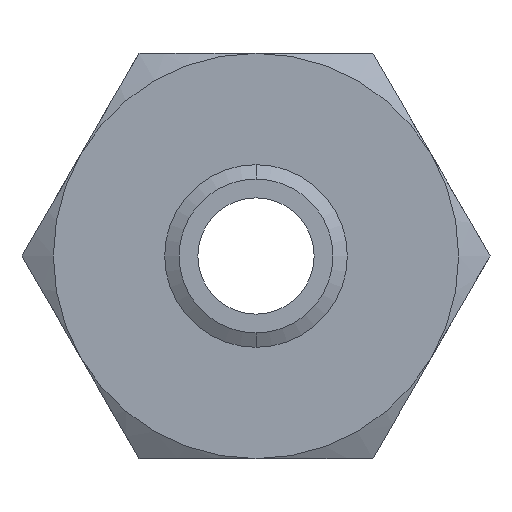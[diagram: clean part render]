
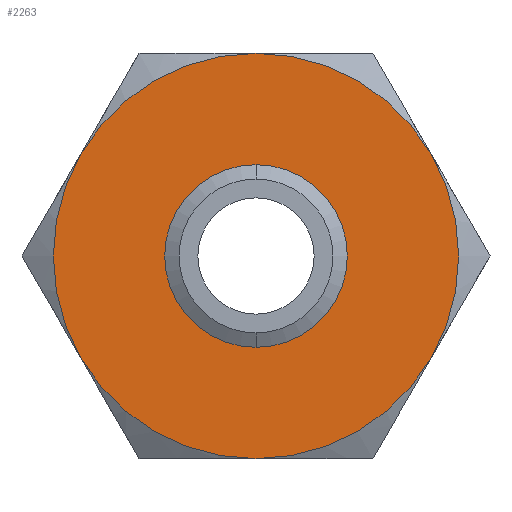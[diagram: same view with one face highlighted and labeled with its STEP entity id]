
A CAD part, front view. The second image highlights one B-rep face of the part: STEP entity #2263.
In plain terms, the highlighted planar face has unit normal (0, -1, 0).
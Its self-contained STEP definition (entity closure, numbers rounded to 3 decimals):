
#77 = EDGE_CURVE ( 'NONE', #78, #79, #428, .T. ) ;
#78 = VERTEX_POINT ( 'NONE', #485 ) ;
#79 = VERTEX_POINT ( 'NONE', #484 ) ;
#124 = EDGE_CURVE ( 'NONE', #2210, #125, #529, .T. ) ;
#125 = VERTEX_POINT ( 'NONE', #521 ) ;
#126 = ORIENTED_EDGE ( 'NONE', *, *, #124, .F. ) ;
#261 = EDGE_LOOP ( 'NONE', ( #2282, #2324 ) ) ;
#424 = DIRECTION ( 'NONE',  ( 0., 0., -1. ) ) ;
#425 = DIRECTION ( 'NONE',  ( 0., -1., 0. ) ) ;
#426 = CARTESIAN_POINT ( 'NONE',  ( 0., 0., 0. ) ) ;
#427 = AXIS2_PLACEMENT_3D ( 'NONE', #426, #425, #424 ) ;
#428 = CIRCLE ( 'NONE', #427, 29.426 ) ;
#484 = CARTESIAN_POINT ( 'NONE',  ( 0., 0., 29.426 ) ) ;
#485 = CARTESIAN_POINT ( 'NONE',  ( 0., 0., -29.426 ) ) ;
#521 = CARTESIAN_POINT ( 'NONE',  ( 67.117, 0., -38.75 ) ) ;
#522 = DIRECTION ( 'NONE',  ( 0., 0., 1. ) ) ;
#523 = DIRECTION ( 'NONE',  ( 0., 1., 0. ) ) ;
#524 = CARTESIAN_POINT ( 'NONE',  ( 0., 0., 0. ) ) ;
#525 = AXIS2_PLACEMENT_3D ( 'NONE', #524, #523, #522 ) ;
#529 = CIRCLE ( 'NONE', #525, 77.5 ) ;
#1197 = CARTESIAN_POINT ( 'NONE',  ( 0., 0., 77.5 ) ) ;
#1249 = DIRECTION ( 'NONE',  ( 0., 0., 1. ) ) ;
#1250 = DIRECTION ( 'NONE',  ( 0., 1., 0. ) ) ;
#1251 = AXIS2_PLACEMENT_3D ( 'NONE', #1266, #1250, #1249 ) ;
#1264 = CIRCLE ( 'NONE', #1251, 77.5 ) ;
#1266 = CARTESIAN_POINT ( 'NONE',  ( 0., 0., 0. ) ) ;
#1267 = CARTESIAN_POINT ( 'NONE',  ( 0., 0., -77.5 ) ) ;
#1298 = CARTESIAN_POINT ( 'NONE',  ( -67.117, 0., -38.75 ) ) ;
#1299 = DIRECTION ( 'NONE',  ( 0., 0., 1. ) ) ;
#1300 = DIRECTION ( 'NONE',  ( 0., 1., 0. ) ) ;
#1301 = CARTESIAN_POINT ( 'NONE',  ( 0., 0., 0. ) ) ;
#1302 = AXIS2_PLACEMENT_3D ( 'NONE', #1301, #1300, #1299 ) ;
#1303 = CIRCLE ( 'NONE', #1302, 77.5 ) ;
#1307 = DIRECTION ( 'NONE',  ( 0., 0., 1. ) ) ;
#1308 = DIRECTION ( 'NONE',  ( 0., 1., 0. ) ) ;
#1309 = AXIS2_PLACEMENT_3D ( 'NONE', #1325, #1308, #1307 ) ;
#1310 = CIRCLE ( 'NONE', #1309, 77.5 ) ;
#1311 = DIRECTION ( 'NONE',  ( 0., 0., 1. ) ) ;
#1312 = DIRECTION ( 'NONE',  ( 0., 1., 0. ) ) ;
#1323 = AXIS2_PLACEMENT_3D ( 'NONE', #1326, #1312, #1311 ) ;
#1324 = CIRCLE ( 'NONE', #1323, 77.5 ) ;
#1325 = CARTESIAN_POINT ( 'NONE',  ( 0., 0., 0. ) ) ;
#1326 = CARTESIAN_POINT ( 'NONE',  ( 0., 0., 0. ) ) ;
#1333 = CARTESIAN_POINT ( 'NONE',  ( -67.117, 0., 38.75 ) ) ;
#1350 = CARTESIAN_POINT ( 'NONE',  ( 67.117, 0., 38.75 ) ) ;
#1467 = FACE_OUTER_BOUND ( 'NONE', #2264, .T. ) ;
#1508 = DIRECTION ( 'NONE',  ( 0., 0., 1. ) ) ;
#1509 = DIRECTION ( 'NONE',  ( 0., 1., 0. ) ) ;
#1510 = AXIS2_PLACEMENT_3D ( 'NONE', #1515, #1509, #1508 ) ;
#1511 = CIRCLE ( 'NONE', #1510, 77.5 ) ;
#1512 = DIRECTION ( 'NONE',  ( 0., 0., 1. ) ) ;
#1513 = DIRECTION ( 'NONE',  ( 0., 1., 0. ) ) ;
#1514 = CARTESIAN_POINT ( 'NONE',  ( 44.745, 0., -77.5 ) ) ;
#1515 = CARTESIAN_POINT ( 'NONE',  ( 0., 0., 0. ) ) ;
#1516 = AXIS2_PLACEMENT_3D ( 'NONE', #1514, #1513, #1512 ) ;
#1517 = PLANE ( 'NONE',  #1516 ) ;
#1518 = FACE_BOUND ( 'NONE', #261, .T. ) ;
#1589 = DIRECTION ( 'NONE',  ( 0., 0., -1. ) ) ;
#1590 = DIRECTION ( 'NONE',  ( 0., -1., 0. ) ) ;
#1591 = CARTESIAN_POINT ( 'NONE',  ( 0., 0., 0. ) ) ;
#1592 = AXIS2_PLACEMENT_3D ( 'NONE', #1591, #1590, #1589 ) ;
#1593 = CIRCLE ( 'NONE', #1592, 29.426 ) ;
#2164 = VERTEX_POINT ( 'NONE', #1197 ) ;
#2181 = VERTEX_POINT ( 'NONE', #1267 ) ;
#2182 = ORIENTED_EDGE ( 'NONE', *, *, #2183, .F. ) ;
#2183 = EDGE_CURVE ( 'NONE', #125, #2181, #1264, .T. ) ;
#2185 = EDGE_CURVE ( 'NONE', #2181, #2186, #1303, .T. ) ;
#2186 = VERTEX_POINT ( 'NONE', #1298 ) ;
#2188 = ORIENTED_EDGE ( 'NONE', *, *, #2185, .F. ) ;
#2197 = EDGE_CURVE ( 'NONE', #2215, #2164, #1324, .T. ) ;
#2198 = EDGE_CURVE ( 'NONE', #2186, #2215, #1310, .T. ) ;
#2200 = ORIENTED_EDGE ( 'NONE', *, *, #2198, .F. ) ;
#2210 = VERTEX_POINT ( 'NONE', #1350 ) ;
#2213 = ORIENTED_EDGE ( 'NONE', *, *, #2197, .F. ) ;
#2215 = VERTEX_POINT ( 'NONE', #1333 ) ;
#2263 = ADVANCED_FACE ( 'NONE', ( #1467, #1518 ), #1517, .F. ) ;
#2264 = EDGE_LOOP ( 'NONE', ( #2265, #2213, #2200, #2188, #2182, #126 ) ) ;
#2265 = ORIENTED_EDGE ( 'NONE', *, *, #2266, .F. ) ;
#2266 = EDGE_CURVE ( 'NONE', #2164, #2210, #1511, .T. ) ;
#2282 = ORIENTED_EDGE ( 'NONE', *, *, #77, .F. ) ;
#2324 = ORIENTED_EDGE ( 'NONE', *, *, #2325, .F. ) ;
#2325 = EDGE_CURVE ( 'NONE', #79, #78, #1593, .T. ) ;
